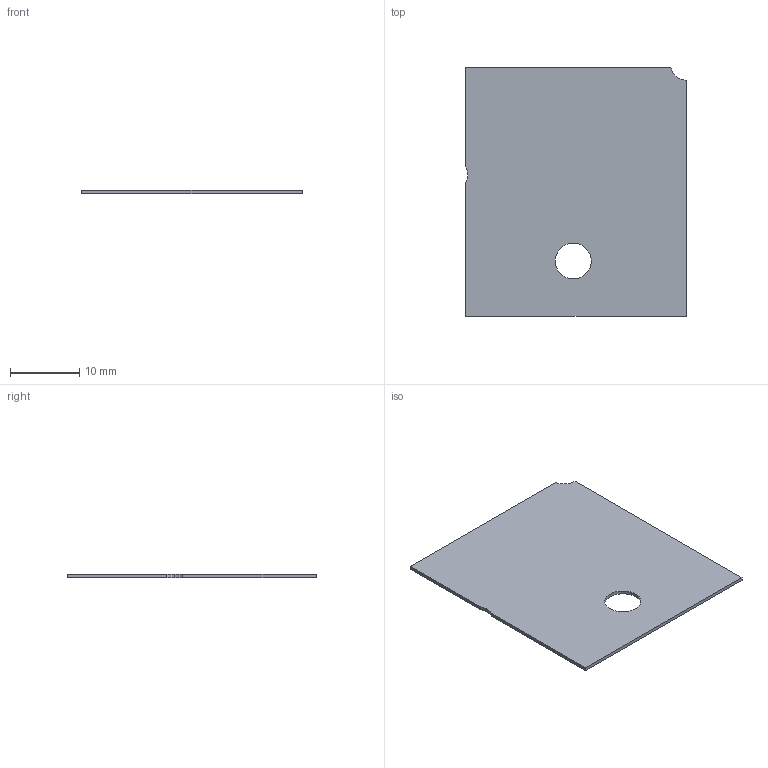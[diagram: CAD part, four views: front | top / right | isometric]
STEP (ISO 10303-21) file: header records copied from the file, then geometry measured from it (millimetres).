
FILE_DESCRIPTION(('Open CASCADE Model'),'2;1');
FILE_NAME('Open CASCADE Shape Model','2026-09-10T00:40:48',('Author'),( 'Open CASCADE'),'Open CASCADE STEP processor 7.8','Open CASCADE 7.8' ,'Unknown');
FILE_SCHEMA(('AUTOMOTIVE_DESIGN { 1 0 10303 214 1 1 1 1 }'));
Length unit declared in the file: millimetre
Products named in the file (1): Open CASCADE STEP translator 7.8 7
Bounding box: 32 x 36 x 0.5 mm (x, y, z)
Volume: 563.6 mm3; surface area: 2330.3 mm2
Topology: 1 solids, 1 shells, 11 faces, 27 edges, 18 vertices
Faces by surface type: plane 7, cylinder 4
Full cylindrical faces by diameter (mm): 5.2 x1
Entity records: 686 total; most frequent: CARTESIAN_POINT 119, DIRECTION 105, LINE 57, VECTOR 57, ORIENTED_EDGE 54, PCURVE 54, DEFINITIONAL_REPRESENTATION 54, EDGE_CURVE 27
